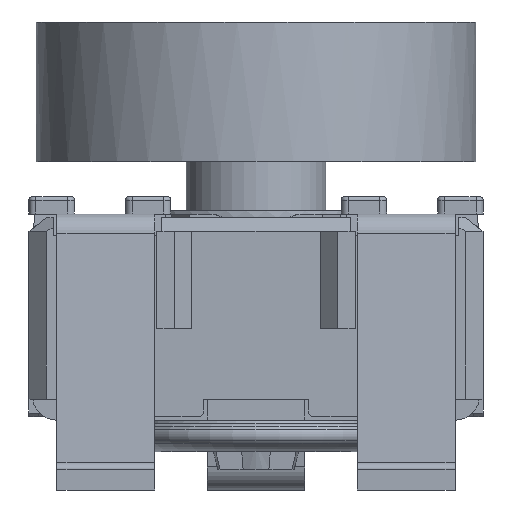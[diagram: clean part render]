
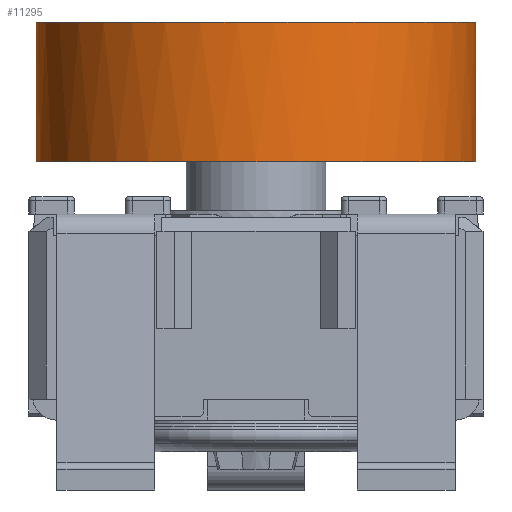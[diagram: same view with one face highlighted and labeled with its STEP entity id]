
A CAD part, front view. The second image highlights one B-rep face of the part: STEP entity #11295.
In plain terms, the highlighted cylindrical face has radius 3.15 mm (diameter 6.3 mm), a partial arc.
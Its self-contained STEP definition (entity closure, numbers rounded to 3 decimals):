
#53=ELLIPSE('',#12250,36.142,3.15);
#54=ELLIPSE('',#12251,36.142,3.15);
#271=CYLINDRICAL_SURFACE('',#12257,3.15);
#733=CIRCLE('',#12239,3.15);
#736=CIRCLE('',#12253,3.15);
#738=CIRCLE('',#12255,3.15);
#739=CIRCLE('',#12258,3.15);
#1331=FACE_OUTER_BOUND('',#1956,.T.);
#1956=EDGE_LOOP('',(#10242,#10243,#10244,#10245,#10246,#10247,#10248,#10249));
#3206=LINE('',#18708,#4453);
#3209=LINE('',#18714,#4456);
#4453=VECTOR('',#15280,10.);
#4456=VECTOR('',#15285,10.);
#5469=VERTEX_POINT('',#18663);
#5470=VERTEX_POINT('',#18664);
#5476=VERTEX_POINT('',#18691);
#5477=VERTEX_POINT('',#18693);
#5478=VERTEX_POINT('',#18697);
#5481=VERTEX_POINT('',#18703);
#5482=VERTEX_POINT('',#18707);
#5484=VERTEX_POINT('',#18713);
#7051=EDGE_CURVE('',#5469,#5470,#733,.T.);
#7063=EDGE_CURVE('',#5476,#5469,#53,.T.);
#7065=EDGE_CURVE('',#5470,#5477,#54,.T.);
#7066=EDGE_CURVE('',#5478,#5476,#736,.T.);
#7070=EDGE_CURVE('',#5477,#5481,#738,.T.);
#7071=EDGE_CURVE('',#5482,#5478,#3206,.T.);
#7074=EDGE_CURVE('',#5484,#5481,#3209,.T.);
#7075=EDGE_CURVE('',#5482,#5484,#739,.T.);
#10242=ORIENTED_EDGE('',*,*,#7066,.T.);
#10243=ORIENTED_EDGE('',*,*,#7063,.T.);
#10244=ORIENTED_EDGE('',*,*,#7051,.T.);
#10245=ORIENTED_EDGE('',*,*,#7065,.T.);
#10246=ORIENTED_EDGE('',*,*,#7070,.T.);
#10247=ORIENTED_EDGE('',*,*,#7074,.F.);
#10248=ORIENTED_EDGE('',*,*,#7075,.F.);
#10249=ORIENTED_EDGE('',*,*,#7071,.T.);
#11295=ADVANCED_FACE('',(#1331),#271,.T.);
#12239=AXIS2_PLACEMENT_3D('',#18666,#15232,#15233);
#12250=AXIS2_PLACEMENT_3D('',#18692,#15263,#15264);
#12251=AXIS2_PLACEMENT_3D('',#18695,#15266,#15267);
#12253=AXIS2_PLACEMENT_3D('',#18698,#15270,#15271);
#12255=AXIS2_PLACEMENT_3D('',#18705,#15276,#15277);
#12257=AXIS2_PLACEMENT_3D('',#18712,#15283,#15284);
#12258=AXIS2_PLACEMENT_3D('',#18715,#15286,#15287);
#15232=DIRECTION('center_axis',(0.,0.,-1.));
#15233=DIRECTION('ref_axis',(0.232,-0.973,0.));
#15263=DIRECTION('center_axis',(0.,-0.996,-0.087));
#15264=DIRECTION('ref_axis',(0.,-0.087,0.996));
#15266=DIRECTION('center_axis',(0.,-0.996,-0.087));
#15267=DIRECTION('ref_axis',(0.,-0.087,0.996));
#15270=DIRECTION('center_axis',(0.,0.,-1.));
#15271=DIRECTION('ref_axis',(0.232,-0.973,0.));
#15276=DIRECTION('center_axis',(0.,0.,-1.));
#15277=DIRECTION('ref_axis',(0.232,-0.973,0.));
#15280=DIRECTION('',(0.,0.,1.));
#15283=DIRECTION('center_axis',(0.,0.,1.));
#15284=DIRECTION('ref_axis',(0.232,-0.973,0.));
#15285=DIRECTION('',(0.,0.,1.));
#15286=DIRECTION('center_axis',(0.,0.,-1.));
#15287=DIRECTION('ref_axis',(0.232,-0.973,0.));
#18663=CARTESIAN_POINT('',(-9.186,5.941,2.));
#18664=CARTESIAN_POINT('',(-13.891,5.941,2.));
#18666=CARTESIAN_POINT('Origin',(-11.538,3.846,2.));
#18691=CARTESIAN_POINT('',(-9.284,6.046,0.8));
#18692=CARTESIAN_POINT('Origin',(-11.538,3.846,25.946));
#18693=CARTESIAN_POINT('',(-13.793,6.046,0.8));
#18695=CARTESIAN_POINT('Origin',(-11.538,3.846,25.946));
#18697=CARTESIAN_POINT('',(-10.809,6.91,0.8));
#18698=CARTESIAN_POINT('Origin',(-11.538,3.846,0.8));
#18703=CARTESIAN_POINT('',(-12.268,6.91,0.8));
#18705=CARTESIAN_POINT('Origin',(-11.538,3.846,0.8));
#18707=CARTESIAN_POINT('',(-10.809,6.91,0.));
#18708=CARTESIAN_POINT('',(-10.809,6.91,0.));
#18712=CARTESIAN_POINT('Origin',(-11.538,3.846,0.));
#18713=CARTESIAN_POINT('',(-12.268,6.91,0.));
#18714=CARTESIAN_POINT('',(-12.268,6.91,0.));
#18715=CARTESIAN_POINT('Origin',(-11.538,3.846,0.));
